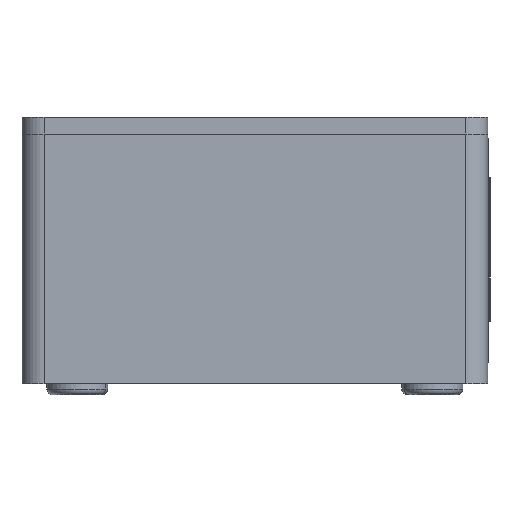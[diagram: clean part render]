
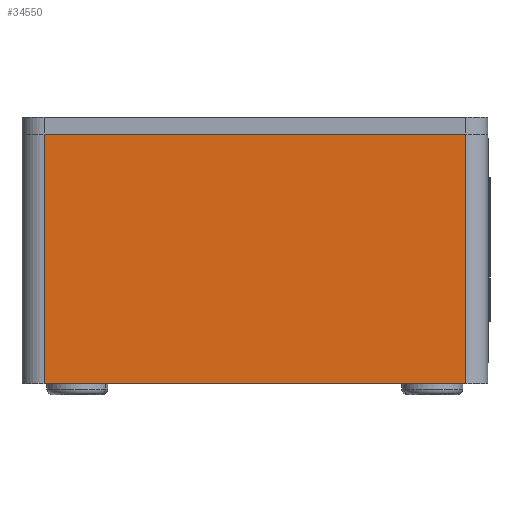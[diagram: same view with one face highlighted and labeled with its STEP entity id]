
A CAD part, front view. The second image highlights one B-rep face of the part: STEP entity #34550.
In plain terms, the highlighted planar face has unit normal (0, -1, 0).
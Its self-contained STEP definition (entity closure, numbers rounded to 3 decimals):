
#229 = DIRECTION ( 'NONE',  ( 1., 0., 0. ) ) ;
#2176 = DIRECTION ( 'NONE',  ( 0., 0., 1. ) ) ;
#2222 = VERTEX_POINT ( 'NONE', #14249 ) ;
#2875 = LINE ( 'NONE', #10762, #19501 ) ;
#3190 = CARTESIAN_POINT ( 'NONE',  ( -51.216, -44.407, 106.277 ) ) ;
#5470 = LINE ( 'NONE', #18999, #31493 ) ;
#5979 = CARTESIAN_POINT ( 'NONE',  ( -55.216, -44.407, 106.277 ) ) ;
#6307 = DIRECTION ( 'NONE',  ( 1., 0., 0. ) ) ;
#6487 = CARTESIAN_POINT ( 'NONE',  ( 24.784, -44.407, 61.276 ) ) ;
#6755 = EDGE_CURVE ( 'NONE', #23698, #16067, #30509, .T. ) ;
#7214 = VECTOR ( 'NONE', #6307, 1000. ) ;
#8391 = ORIENTED_EDGE ( 'NONE', *, *, #32516, .T. ) ;
#9287 = ORIENTED_EDGE ( 'NONE', *, *, #10208, .T. ) ;
#10208 = EDGE_CURVE ( 'NONE', #23679, #16067, #5470, .T. ) ;
#10762 = CARTESIAN_POINT ( 'NONE',  ( -55.216, -44.407, 61.276 ) ) ;
#12272 = CARTESIAN_POINT ( 'NONE',  ( -51.216, -44.407, 106.277 ) ) ;
#12712 = FACE_OUTER_BOUND ( 'NONE', #19305, .T. ) ;
#14249 = CARTESIAN_POINT ( 'NONE',  ( -51.216, -44.407, 61.276 ) ) ;
#16067 = VERTEX_POINT ( 'NONE', #30467 ) ;
#18999 = CARTESIAN_POINT ( 'NONE',  ( 24.784, -44.407, 106.277 ) ) ;
#19181 = LINE ( 'NONE', #3190, #33664 ) ;
#19305 = EDGE_LOOP ( 'NONE', ( #25553, #8391, #33991, #9287 ) ) ;
#19501 = VECTOR ( 'NONE', #229, 1000. ) ;
#21117 = DIRECTION ( 'NONE',  ( 0., 1., 0. ) ) ;
#23398 = CARTESIAN_POINT ( 'NONE',  ( -55.216, -44.407, 106.277 ) ) ;
#23679 = VERTEX_POINT ( 'NONE', #6487 ) ;
#23698 = VERTEX_POINT ( 'NONE', #12272 ) ;
#25553 = ORIENTED_EDGE ( 'NONE', *, *, #6755, .F. ) ;
#26379 = PLANE ( 'NONE',  #29379 ) ;
#29379 = AXIS2_PLACEMENT_3D ( 'NONE', #23398, #21117, #2176 ) ;
#30467 = CARTESIAN_POINT ( 'NONE',  ( 24.784, -44.407, 106.277 ) ) ;
#30509 = LINE ( 'NONE', #5979, #7214 ) ;
#30982 = EDGE_CURVE ( 'NONE', #2222, #23679, #2875, .T. ) ;
#31493 = VECTOR ( 'NONE', #32137, 1000. ) ;
#32137 = DIRECTION ( 'NONE',  ( 0., 0., 1. ) ) ;
#32516 = EDGE_CURVE ( 'NONE', #23698, #2222, #19181, .T. ) ;
#32640 = DIRECTION ( 'NONE',  ( 0., 0., -1. ) ) ;
#33664 = VECTOR ( 'NONE', #32640, 1000. ) ;
#33991 = ORIENTED_EDGE ( 'NONE', *, *, #30982, .T. ) ;
#34550 = ADVANCED_FACE ( 'NONE', ( #12712 ), #26379, .F. ) ;
